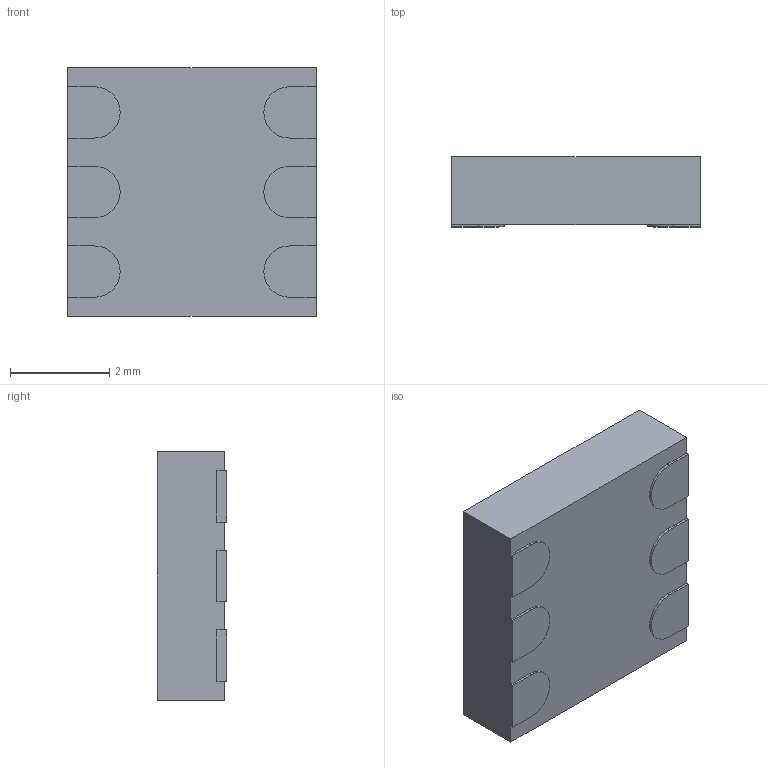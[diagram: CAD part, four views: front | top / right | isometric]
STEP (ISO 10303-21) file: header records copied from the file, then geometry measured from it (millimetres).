
FILE_DESCRIPTION(('FreeCAD Model'),'2;1');
FILE_NAME('Open CASCADE Shape Model','2025-09-15T02:05:16',(''),(''), 'Open CASCADE STEP processor 7.8','FreeCAD','Unknown');
FILE_SCHEMA(('AUTOMOTIVE_DESIGN { 1 0 10303 214 1 1 1 1 }'));
Length unit declared in the file: millimetre
Products named in the file (7): DFN_standard; Body_Solid1; Body002_Solid1; Array002_Solid1; Array003_Solid2; Body004_Solid1; Pad004_Solid1
Assembly tree (9 placements, depth 2):
  DFN_standard
    Body_Solid1
    Body002_Solid1
    Array002_Solid1  x3
    Array003_Solid2  x2
    Body004_Solid1
    Pad004_Solid1
Bounding box: 5 x 1.4 x 5 mm (x, y, z)
Volume: 34 mm3; surface area: 95.4 mm2
Topology: 9 solids, 9 shells, 74 faces, 165 edges, 110 vertices
Faces by surface type: plane 59, cylinder 15
Full cylindrical faces by diameter (mm): 0.5 x3
Entity records: 1841 total; most frequent: DIRECTION 285, CARTESIAN_POINT 281, ORIENTED_EDGE 258, EDGE_CURVE 129, LINE 105, VECTOR 105, AXIS2_PLACEMENT_3D 90, VERTEX_POINT 86
